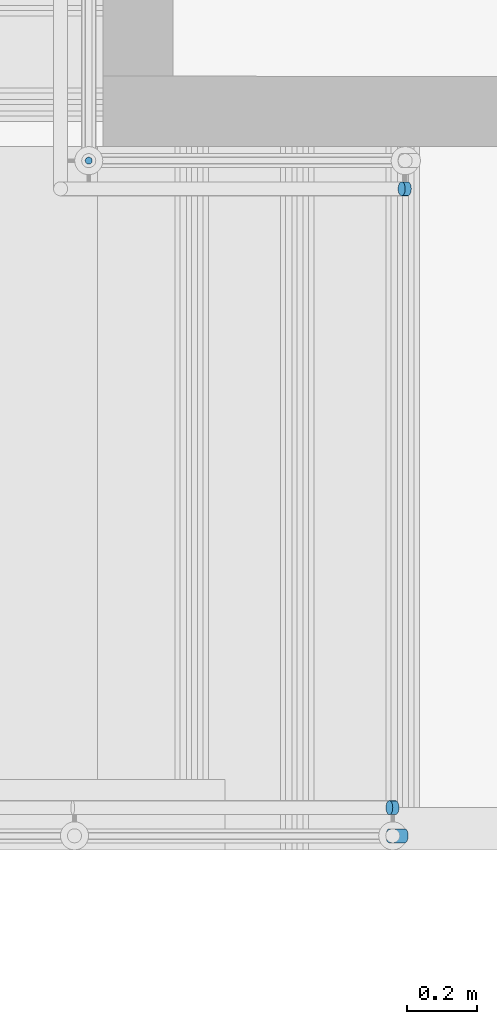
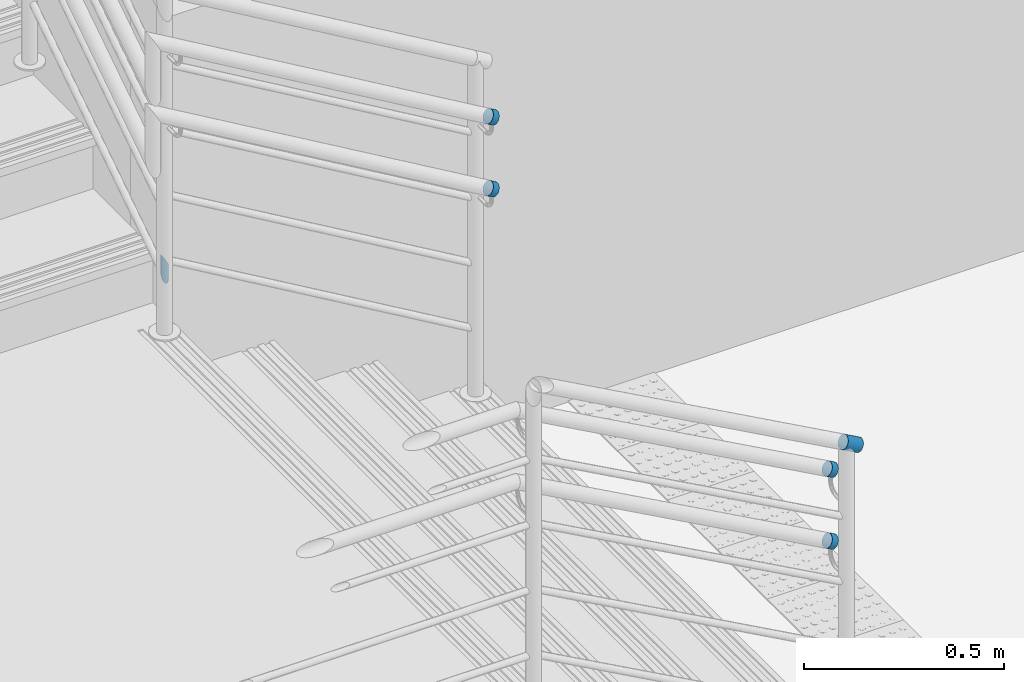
# One storey, part 143 of 237: 6 building element parts, 2 elements without a shape of their own.
"""IFC2X3 building model written with IfcOpenShell, lengths in millimetres."""

from ifc_helpers import new_model, entity, si_unit, converted_unit, derived_unit, money_unit, direction, frame, origin_with_axes, place, context, subcontext, project, spatial, faceted_brep, material, type_object, element, aggregate, save


model = new_model("IFC2X3")

# Units and contexts
model_context = context("Model", 3, precision=0.01, world=origin_with_axes(), true_north=direction((0.0, 1.0)))
body_context = subcontext(model_context, "Body", "Model", "MODEL_VIEW")
ifc_project = project(units=[si_unit("LENGTHUNIT", "METRE", prefix="MILLI"), si_unit("AREAUNIT", "SQUARE_METRE"), si_unit("VOLUMEUNIT", "CUBIC_METRE"), converted_unit("PLANEANGLEUNIT", "DEGREE", entity("IfcPlaneAngleMeasure", 0.0174532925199), si_unit("PLANEANGLEUNIT", "RADIAN"), dimensions=[0, 0, 0, 0, 0, 0, 0]), money_unit("USD"), converted_unit("TIMEUNIT", "Year", entity("IfcTimeMeasure", 31556926.0), si_unit("TIMEUNIT", "SECOND"), dimensions=[0, 0, 1, 0, 0, 0, 0]), si_unit("MASSUNIT", "GRAM", prefix="KILO"), si_unit("THERMODYNAMICTEMPERATUREUNIT", "DEGREE_CELSIUS"), si_unit("LUMINOUSINTENSITYUNIT", "LUMEN"), si_unit("ENERGYUNIT", "JOULE", prefix="MEGA"), derived_unit("THERMALCONDUCTANCEUNIT", [(si_unit("POWERUNIT", "WATT"), 1), (si_unit("LENGTHUNIT", "METRE"), -1), (si_unit("THERMODYNAMICTEMPERATUREUNIT", "KELVIN"), -1)]), derived_unit("SPECIFICHEATCAPACITYUNIT", [(si_unit("ENERGYUNIT", "JOULE"), 1), (si_unit("MASSUNIT", "GRAM", prefix="KILO"), -1), (si_unit("THERMODYNAMICTEMPERATUREUNIT", "KELVIN"), -1)]), derived_unit("MASSDENSITYUNIT", [(si_unit("MASSUNIT", "GRAM", prefix="KILO"), 1), (si_unit("VOLUMEUNIT", "CUBIC_METRE"), -1)])], contexts=[model_context])

# Site, building, storey
site_placement = place(None, origin_with_axes())
site = spatial("IfcSite", under=ifc_project, at=site_placement, Name="Local", CompositionType="ELEMENT")
building_placement = place(site_placement, origin_with_axes())
building = spatial("IfcBuilding", under=site, at=building_placement, Name="Construção", CompositionType="ELEMENT")
storey_placement = place(building_placement, origin_with_axes())
storey = spatial("IfcBuildingStorey", under=building, at=storey_placement, Name="Pavimento Térreo", CompositionType="ELEMENT", Elevation=0.0)

# Railing, building element parts
railing_type = type_object("IfcRailingType", Name="Tipo de Guarda-Corpo", PredefinedType="NOTDEFINED")
railing_1_placement = place(storey_placement, frame((77071.0413397, 23732.4143775, -4865.39060156), z_axis=(0.0, 0.0, 1.0), x_axis=(1.0, 0.0, 0.0)))
railing_1 = element("IfcRailing", 1, at=railing_1_placement, inside=storey, type_object=railing_type, Name="Guarda-Corpo - 001", PredefinedType="NOTDEFINED")
ifc_material = material(Name="Aço - Inoxidável")
building_element_part_1_placement = place(railing_1_placement, origin_with_axes())
building_element_part_1 = element("IfcBuildingElementPart", 2, at=building_element_part_1_placement, material=ifc_material, Name="Aço - Inoxidável", context=body_context, shape_type="Brep", body=[
    faceted_brep([(4512.85140872, -3219.99526689, 704.487121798), (4514.52565876, -3220.29911183, 707.529877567), (4532.04819086, -3220.29911183, 697.888255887), (4530.37394083, -3219.99526689, 694.845500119), (4511.17715869, -3220.29911183, 701.44436603), (4509.55377989, -3221.20141448, 698.494062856), (4508.03059788, -3222.67475882, 695.725855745), (4506.65389377, -3224.67437803, 693.22385527), (4505.46549801, -3227.1395147, 691.064083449), (4504.50151941, -3229.99526689, 689.312163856), (4503.79124798, -3233.15486402, 688.021327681), (4503.35626494, -3236.52230334, 687.230796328), (4503.20978704, -3239.99526689, 686.964589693), (4503.35626494, -3243.46823044, 687.230796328), (4503.79124798, -3246.83566976, 688.021327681), (4504.50151941, -3249.99526689, 689.312163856), (4505.46549801, -3252.85101908, 691.064083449), (4506.65389377, -3255.31615575, 693.22385527), (4508.03059788, -3257.31577497, 695.725855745), (4509.55377989, -3258.78911931, 698.494062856), (4511.17715869, -3259.69142195, 701.44436603), (4512.85140872, -3259.99526689, 704.487121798), (4514.52565876, -3259.69142195, 707.529877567), (4516.14903755, -3258.78911931, 710.480180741), (4517.67221956, -3257.31577497, 713.248387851), (4519.04892367, -3255.31615575, 715.750388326), (4520.23731943, -3252.85101908, 717.910160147), (4521.20129803, -3249.99526689, 719.66207974), (4521.91156947, -3246.83566976, 720.952915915), (4522.3465525, -3243.46823044, 721.743447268), (4522.4930304, -3239.99526689, 722.009653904), (4522.3465525, -3236.52230334, 721.743447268), (4521.91156947, -3233.15486402, 720.952915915), (4521.20129803, -3229.99526689, 719.66207974), (4520.23731943, -3227.1395147, 717.910160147), (4519.04892367, -3224.67437803, 715.750388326), (4517.67221956, -3222.67475882, 713.248387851), (4516.14903755, -3221.20141448, 710.480180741), (4533.67156966, -3221.20141448, 700.838559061), (4535.19475167, -3222.67475882, 703.606766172), (4536.57145578, -3224.67437803, 706.108766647), (4537.75985154, -3227.1395147, 708.268538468), (4538.72383014, -3229.99526689, 710.020458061), (4539.43410157, -3233.15486402, 711.311294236), (4539.86908461, -3236.52230334, 712.101825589), (4540.01556251, -3239.99526689, 712.368032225), (4539.86908461, -3243.46823044, 712.101825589), (4539.43410157, -3246.83566976, 711.311294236), (4538.72383014, -3249.99526689, 710.020458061), (4537.75985154, -3252.85101908, 708.268538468), (4536.57145578, -3255.31615575, 706.108766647), (4535.19475167, -3257.31577497, 703.606766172), (4533.67156966, -3258.78911931, 700.838559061), (4532.04819086, -3259.69142195, 697.888255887), (4530.37394083, -3259.99526689, 694.845500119), (4528.69969079, -3259.69142195, 691.802744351), (4527.076312, -3258.78911931, 688.852441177), (4525.55312999, -3257.31577497, 686.084234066), (4524.17642587, -3255.31615575, 683.582233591), (4522.98803012, -3252.85101908, 681.42246177), (4522.02405152, -3249.99526689, 679.670542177), (4521.31378008, -3246.83566976, 678.379706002), (4520.87879705, -3243.46823044, 677.589174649), (4520.73231915, -3239.99526689, 677.322968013), (4520.87879705, -3236.52230334, 677.589174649), (4521.31378008, -3233.15486402, 678.379706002), (4522.02405152, -3229.99526689, 679.670542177), (4522.98803012, -3227.1395147, 681.42246177), (4524.17642587, -3224.67437803, 683.582233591), (4525.55312999, -3222.67475882, 686.084234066), (4527.076312, -3221.20141448, 688.852441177), (4528.69969079, -3220.29911183, 691.802744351)], [[[0, 1, 2, 3]], [[0, 4, 5, 6, 7, 8, 9, 10, 11, 12, 13, 14, 15, 16, 17, 18, 19, 20, 21, 22, 23, 24, 25, 26, 27, 28, 29, 30, 31, 32, 33, 34, 35, 36, 37, 1]], [[1, 37, 38, 2]], [[3, 2, 38, 39, 40, 41, 42, 43, 44, 45, 46, 47, 48, 49, 50, 51, 52, 53, 54, 55, 56, 57, 58, 59, 60, 61, 62, 63, 64, 65, 66, 67, 68, 69, 70, 71]], [[4, 0, 3, 71]], [[5, 4, 71, 70]], [[6, 5, 70, 69]], [[7, 6, 69, 68]], [[8, 7, 68, 67]], [[9, 8, 67, 66]], [[10, 9, 66, 65]], [[11, 10, 65, 64]], [[12, 11, 64, 63]], [[13, 12, 63, 62]], [[14, 13, 62, 61]], [[15, 14, 61, 60]], [[16, 15, 60, 59]], [[17, 16, 59, 58]], [[18, 17, 58, 57]], [[19, 18, 57, 56]], [[20, 19, 56, 55]], [[21, 20, 55, 54]], [[22, 21, 54, 53]], [[23, 22, 53, 52]], [[24, 23, 52, 51]], [[25, 24, 51, 50]], [[26, 25, 50, 49]], [[27, 26, 49, 48]], [[28, 27, 48, 47]], [[29, 28, 47, 46]], [[30, 29, 46, 45]], [[31, 30, 45, 44]], [[32, 31, 44, 43]], [[33, 32, 43, 42]], [[34, 33, 42, 41]], [[35, 34, 41, 40]], [[36, 35, 40, 39]], [[37, 36, 39, 38]]]),
])
building_element_part_2_placement = place(railing_1_placement, origin_with_axes())
building_element_part_2 = element("IfcBuildingElementPart", 3, at=building_element_part_2_placement, material=ifc_material, Name="Aço - Inoxidável", context=body_context, shape_type="Brep", body=[
    faceted_brep([(4512.85140872, -3219.99526689, 924.487121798), (4514.52565876, -3220.29911183, 927.529877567), (4532.04819086, -3220.29911183, 917.888255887), (4530.37394083, -3219.99526689, 914.845500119), (4511.17715869, -3220.29911183, 921.44436603), (4509.55377989, -3221.20141448, 918.494062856), (4508.03059788, -3222.67475882, 915.725855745), (4506.65389377, -3224.67437803, 913.22385527), (4505.46549801, -3227.1395147, 911.064083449), (4504.50151941, -3229.99526689, 909.312163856), (4503.79124798, -3233.15486402, 908.021327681), (4503.35626494, -3236.52230334, 907.230796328), (4503.20978704, -3239.99526689, 906.964589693), (4503.35626494, -3243.46823044, 907.230796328), (4503.79124798, -3246.83566976, 908.021327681), (4504.50151941, -3249.99526689, 909.312163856), (4505.46549801, -3252.85101908, 911.064083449), (4506.65389377, -3255.31615575, 913.22385527), (4508.03059788, -3257.31577497, 915.725855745), (4509.55377989, -3258.78911931, 918.494062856), (4511.17715869, -3259.69142195, 921.44436603), (4512.85140872, -3259.99526689, 924.487121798), (4514.52565876, -3259.69142195, 927.529877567), (4516.14903755, -3258.78911931, 930.480180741), (4517.67221956, -3257.31577497, 933.248387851), (4519.04892367, -3255.31615575, 935.750388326), (4520.23731943, -3252.85101908, 937.910160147), (4521.20129803, -3249.99526689, 939.66207974), (4521.91156947, -3246.83566976, 940.952915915), (4522.3465525, -3243.46823044, 941.743447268), (4522.4930304, -3239.99526689, 942.009653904), (4522.3465525, -3236.52230334, 941.743447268), (4521.91156947, -3233.15486402, 940.952915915), (4521.20129803, -3229.99526689, 939.66207974), (4520.23731943, -3227.1395147, 937.910160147), (4519.04892367, -3224.67437803, 935.750388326), (4517.67221956, -3222.67475882, 933.248387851), (4516.14903755, -3221.20141448, 930.480180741), (4533.67156966, -3221.20141448, 920.838559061), (4535.19475167, -3222.67475882, 923.606766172), (4536.57145578, -3224.67437803, 926.108766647), (4537.75985154, -3227.1395147, 928.268538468), (4538.72383014, -3229.99526689, 930.020458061), (4539.43410157, -3233.15486402, 931.311294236), (4539.86908461, -3236.52230334, 932.101825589), (4540.01556251, -3239.99526689, 932.368032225), (4539.86908461, -3243.46823044, 932.101825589), (4539.43410157, -3246.83566976, 931.311294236), (4538.72383014, -3249.99526689, 930.020458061), (4537.75985154, -3252.85101908, 928.268538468), (4536.57145578, -3255.31615575, 926.108766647), (4535.19475167, -3257.31577497, 923.606766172), (4533.67156966, -3258.78911931, 920.838559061), (4532.04819086, -3259.69142195, 917.888255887), (4530.37394083, -3259.99526689, 914.845500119), (4528.69969079, -3259.69142195, 911.802744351), (4527.076312, -3258.78911931, 908.852441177), (4525.55312999, -3257.31577497, 906.084234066), (4524.17642587, -3255.31615575, 903.582233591), (4522.98803012, -3252.85101908, 901.42246177), (4522.02405152, -3249.99526689, 899.670542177), (4521.31378008, -3246.83566976, 898.379706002), (4520.87879705, -3243.46823044, 897.589174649), (4520.73231915, -3239.99526689, 897.322968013), (4520.87879705, -3236.52230334, 897.589174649), (4521.31378008, -3233.15486402, 898.379706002), (4522.02405152, -3229.99526689, 899.670542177), (4522.98803012, -3227.1395147, 901.42246177), (4524.17642587, -3224.67437803, 903.582233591), (4525.55312999, -3222.67475882, 906.084234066), (4527.076312, -3221.20141448, 908.852441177), (4528.69969079, -3220.29911183, 911.802744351)], [[[0, 1, 2, 3]], [[0, 4, 5, 6, 7, 8, 9, 10, 11, 12, 13, 14, 15, 16, 17, 18, 19, 20, 21, 22, 23, 24, 25, 26, 27, 28, 29, 30, 31, 32, 33, 34, 35, 36, 37, 1]], [[1, 37, 38, 2]], [[3, 2, 38, 39, 40, 41, 42, 43, 44, 45, 46, 47, 48, 49, 50, 51, 52, 53, 54, 55, 56, 57, 58, 59, 60, 61, 62, 63, 64, 65, 66, 67, 68, 69, 70, 71]], [[4, 0, 3, 71]], [[5, 4, 71, 70]], [[6, 5, 70, 69]], [[7, 6, 69, 68]], [[8, 7, 68, 67]], [[9, 8, 67, 66]], [[10, 9, 66, 65]], [[11, 10, 65, 64]], [[12, 11, 64, 63]], [[13, 12, 63, 62]], [[14, 13, 62, 61]], [[15, 14, 61, 60]], [[16, 15, 60, 59]], [[17, 16, 59, 58]], [[18, 17, 58, 57]], [[19, 18, 57, 56]], [[20, 19, 56, 55]], [[21, 20, 55, 54]], [[22, 21, 54, 53]], [[23, 22, 53, 52]], [[24, 23, 52, 51]], [[25, 24, 51, 50]], [[26, 25, 50, 49]], [[27, 26, 49, 48]], [[28, 27, 48, 47]], [[29, 28, 47, 46]], [[30, 29, 46, 45]], [[31, 30, 45, 44]], [[32, 31, 44, 43]], [[33, 32, 43, 42]], [[34, 33, 42, 41]], [[35, 34, 41, 40]], [[36, 35, 40, 39]], [[37, 36, 39, 38]]]),
])
building_element_part_3_placement = place(railing_1_placement, origin_with_axes())
building_element_part_3 = element("IfcBuildingElementPart", 4, at=building_element_part_3_placement, material=ifc_material, Name="Aço - Inoxidável", context=body_context, shape_type="Brep", body=[
    faceted_brep([(4512.85140872, -3299.99526689, 1054.4871218), (4514.52565876, -3300.29911183, 1057.52987757), (4558.33198902, -3300.29911183, 1033.42582337), (4556.65773899, -3299.99526689, 1030.3830676), (4511.17715869, -3300.29911183, 1051.44436603), (4509.55377989, -3301.20141448, 1048.49406286), (4508.03059788, -3302.67475882, 1045.72585575), (4506.65389377, -3304.67437803, 1043.22385527), (4505.46549801, -3307.1395147, 1041.06408345), (4504.50151941, -3309.99526689, 1039.31216386), (4503.79124798, -3313.15486402, 1038.02132768), (4503.35626494, -3316.52230334, 1037.23079633), (4503.20978704, -3319.99526689, 1036.96458969), (4503.35626494, -3323.46823044, 1037.23079633), (4503.79124798, -3326.83566976, 1038.02132768), (4504.50151941, -3329.99526689, 1039.31216386), (4505.46549801, -3332.85101908, 1041.06408345), (4506.65389377, -3335.31615575, 1043.22385527), (4508.03059788, -3337.31577497, 1045.72585575), (4509.55377989, -3338.78911931, 1048.49406286), (4511.17715869, -3339.69142195, 1051.44436603), (4512.85140872, -3339.99526689, 1054.4871218), (4514.52565876, -3339.69142195, 1057.52987757), (4516.14903755, -3338.78911931, 1060.48018074), (4517.67221956, -3337.31577497, 1063.24838785), (4519.04892367, -3335.31615575, 1065.75038833), (4520.23731943, -3332.85101908, 1067.91016015), (4521.20129803, -3329.99526689, 1069.66207974), (4521.91156947, -3326.83566976, 1070.95291592), (4522.3465525, -3323.46823044, 1071.74344727), (4522.4930304, -3319.99526689, 1072.0096539), (4522.3465525, -3316.52230334, 1071.74344727), (4521.91156947, -3313.15486402, 1070.95291592), (4521.20129803, -3309.99526689, 1069.66207974), (4520.23731943, -3307.1395147, 1067.91016015), (4519.04892367, -3304.67437803, 1065.75038833), (4517.67221956, -3302.67475882, 1063.24838785), (4516.14903755, -3301.20141448, 1060.48018074), (4559.95536781, -3301.20141448, 1036.37612654), (4561.47854983, -3302.67475882, 1039.14433365), (4562.85525394, -3304.67437803, 1041.64633413), (4564.0436497, -3307.1395147, 1043.80610595), (4565.00762829, -3309.99526689, 1045.55802554), (4565.71789973, -3313.15486402, 1046.84886172), (4566.15288277, -3316.52230334, 1047.63939307), (4566.29936067, -3319.99526689, 1047.90559971), (4566.15288277, -3323.46823044, 1047.63939307), (4565.71789973, -3326.83566976, 1046.84886172), (4565.00762829, -3329.99526689, 1045.55802554), (4564.0436497, -3332.85101908, 1043.80610595), (4562.85525394, -3335.31615575, 1041.64633413), (4561.47854983, -3337.31577497, 1039.14433365), (4559.95536781, -3338.78911931, 1036.37612654), (4558.33198902, -3339.69142195, 1033.42582337), (4556.65773899, -3339.99526689, 1030.3830676), (4554.98348895, -3339.69142195, 1027.34031183), (4553.36011016, -3338.78911931, 1024.39000866), (4551.83692815, -3337.31577497, 1021.62180155), (4550.46022403, -3335.31615575, 1019.11980107), (4549.27182828, -3332.85101908, 1016.96002925), (4548.30784968, -3329.99526689, 1015.20810966), (4547.59757824, -3326.83566976, 1013.91727348), (4547.1625952, -3323.46823044, 1013.12674213), (4547.01611731, -3319.99526689, 1012.86053549), (4547.1625952, -3316.52230334, 1013.12674213), (4547.59757824, -3313.15486402, 1013.91727348), (4548.30784968, -3309.99526689, 1015.20810966), (4549.27182828, -3307.1395147, 1016.96002925), (4550.46022403, -3304.67437803, 1019.11980107), (4551.83692815, -3302.67475882, 1021.62180155), (4553.36011016, -3301.20141448, 1024.39000866), (4554.98348895, -3300.29911183, 1027.34031183)], [[[0, 1, 2, 3]], [[0, 4, 5, 6, 7, 8, 9, 10, 11, 12, 13, 14, 15, 16, 17, 18, 19, 20, 21, 22, 23, 24, 25, 26, 27, 28, 29, 30, 31, 32, 33, 34, 35, 36, 37, 1]], [[1, 37, 38, 2]], [[3, 2, 38, 39, 40, 41, 42, 43, 44, 45, 46, 47, 48, 49, 50, 51, 52, 53, 54, 55, 56, 57, 58, 59, 60, 61, 62, 63, 64, 65, 66, 67, 68, 69, 70, 71]], [[4, 0, 3, 71]], [[5, 4, 71, 70]], [[6, 5, 70, 69]], [[7, 6, 69, 68]], [[8, 7, 68, 67]], [[9, 8, 67, 66]], [[10, 9, 66, 65]], [[11, 10, 65, 64]], [[12, 11, 64, 63]], [[13, 12, 63, 62]], [[14, 13, 62, 61]], [[15, 14, 61, 60]], [[16, 15, 60, 59]], [[17, 16, 59, 58]], [[18, 17, 58, 57]], [[19, 18, 57, 56]], [[20, 19, 56, 55]], [[21, 20, 55, 54]], [[22, 21, 54, 53]], [[23, 22, 53, 52]], [[24, 23, 52, 51]], [[25, 24, 51, 50]], [[26, 25, 50, 49]], [[27, 26, 49, 48]], [[28, 27, 48, 47]], [[29, 28, 47, 46]], [[30, 29, 46, 45]], [[31, 30, 45, 44]], [[32, 31, 44, 43]], [[33, 32, 43, 42]], [[34, 33, 42, 41]], [[35, 34, 41, 40]], [[36, 35, 40, 39]], [[37, 36, 39, 38]]]),
])
aggregate(railing_1, [building_element_part_1, building_element_part_2, building_element_part_3])

railing_2_placement = place(storey_placement, frame((84562.8908804, 21657.2175927, -4868.39227091), z_axis=(0.0, 0.0, 1.0), x_axis=(1.0, 0.0, 0.0)))
railing_2 = element("IfcRailing", 5, at=railing_2_placement, inside=storey, type_object=railing_type, Name="Guarda-Corpo - 002", PredefinedType="NOTDEFINED")
building_element_part_4_placement = place(railing_2_placement, origin_with_axes())
building_element_part_4 = element("IfcBuildingElementPart", 6, at=building_element_part_4_placement, material=ifc_material, Name="Aço - Inoxidável", context=body_context, shape_type="Brep", body=[
    faceted_brep([(-2944.0517007, 615.201517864, 706.21625671), (-2942.29432627, 614.897672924, 709.211771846), (-2925.04384212, 614.897672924, 699.091455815), (-2926.80121655, 615.201517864, 696.095940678), (-2945.80907514, 614.897672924, 703.220741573), (-2947.51305264, 613.99537028, 700.316243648), (-2949.11185872, 612.52202594, 697.591014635), (-2950.55691445, 610.522406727, 695.127859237), (-2951.80431256, 608.057270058, 693.001619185), (-2952.81615148, 605.201517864, 691.276899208), (-2953.561687, 602.041920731, 690.006104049), (-2954.01826639, 598.674481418, 689.227846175), (-2954.17201674, 595.201517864, 688.965772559), (-2954.01826639, 591.728554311, 689.227846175), (-2953.561687, 588.361114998, 690.006104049), (-2952.81615148, 585.201517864, 691.276899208), (-2951.80431256, 582.34576567, 693.001619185), (-2950.55691445, 579.880629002, 695.127859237), (-2949.11185872, 577.881009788, 697.591014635), (-2947.51305264, 576.407665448, 700.316243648), (-2945.80907514, 575.505362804, 703.220741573), (-2944.0517007, 575.201517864, 706.21625671), (-2942.29432627, 575.505362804, 709.211771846), (-2940.59034876, 576.407665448, 712.116269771), (-2938.99154269, 577.881009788, 714.841498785), (-2937.54648695, 579.880629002, 717.304654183), (-2936.29908884, 582.34576567, 719.430894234), (-2935.28724993, 585.201517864, 721.155614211), (-2934.54171441, 588.361114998, 722.426409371), (-2934.08513501, 591.728554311, 723.204667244), (-2933.93138467, 595.201517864, 723.46674086), (-2934.08513501, 598.674481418, 723.204667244), (-2934.54171441, 602.041920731, 722.426409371), (-2935.28724993, 605.201517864, 721.155614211), (-2936.29908884, 608.057270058, 719.430894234), (-2937.54648695, 610.522406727, 717.304654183), (-2938.99154269, 612.52202594, 714.841498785), (-2940.59034876, 613.99537028, 712.116269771), (-2923.33986461, 613.99537028, 701.99595374), (-2921.74105854, 612.52202594, 704.721182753), (-2920.2960028, 610.522406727, 707.184338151), (-2919.04860469, 608.057270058, 709.310578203), (-2918.03676578, 605.201517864, 711.03529818), (-2917.29123026, 602.041920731, 712.306093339), (-2916.83465086, 598.674481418, 713.084351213), (-2916.68090052, 595.201517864, 713.346424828), (-2916.83465086, 591.728554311, 713.084351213), (-2917.29123026, 588.361114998, 712.306093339), (-2918.03676578, 585.201517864, 711.03529818), (-2919.04860469, 582.34576567, 709.310578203), (-2920.2960028, 579.880629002, 707.184338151), (-2921.74105854, 577.881009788, 704.721182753), (-2923.33986461, 576.407665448, 701.99595374), (-2925.04384212, 575.505362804, 699.091455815), (-2926.80121655, 575.201517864, 696.095940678), (-2928.55859099, 575.505362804, 693.100425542), (-2930.26256849, 576.407665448, 690.195927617), (-2931.86137457, 577.881009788, 687.470698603), (-2933.3064303, 579.880629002, 685.007543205), (-2934.55382841, 582.34576567, 682.881303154), (-2935.56566733, 585.201517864, 681.156583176), (-2936.31120285, 588.361114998, 679.885788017), (-2936.76778224, 591.728554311, 679.107530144), (-2936.92153258, 595.201517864, 678.845456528), (-2936.76778224, 598.674481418, 679.107530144), (-2936.31120285, 602.041920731, 679.885788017), (-2935.56566733, 605.201517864, 681.156583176), (-2934.55382841, 608.057270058, 682.881303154), (-2933.3064303, 610.522406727, 685.007543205), (-2931.86137457, 612.52202594, 687.470698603), (-2930.26256849, 613.99537028, 690.195927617), (-2928.55859099, 614.897672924, 693.100425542)], [[[0, 1, 2, 3]], [[0, 4, 5, 6, 7, 8, 9, 10, 11, 12, 13, 14, 15, 16, 17, 18, 19, 20, 21, 22, 23, 24, 25, 26, 27, 28, 29, 30, 31, 32, 33, 34, 35, 36, 37, 1]], [[1, 37, 38, 2]], [[3, 2, 38, 39, 40, 41, 42, 43, 44, 45, 46, 47, 48, 49, 50, 51, 52, 53, 54, 55, 56, 57, 58, 59, 60, 61, 62, 63, 64, 65, 66, 67, 68, 69, 70, 71]], [[4, 0, 3, 71]], [[5, 4, 71, 70]], [[6, 5, 70, 69]], [[7, 6, 69, 68]], [[8, 7, 68, 67]], [[9, 8, 67, 66]], [[10, 9, 66, 65]], [[11, 10, 65, 64]], [[12, 11, 64, 63]], [[13, 12, 63, 62]], [[14, 13, 62, 61]], [[15, 14, 61, 60]], [[16, 15, 60, 59]], [[17, 16, 59, 58]], [[18, 17, 58, 57]], [[19, 18, 57, 56]], [[20, 19, 56, 55]], [[21, 20, 55, 54]], [[22, 21, 54, 53]], [[23, 22, 53, 52]], [[24, 23, 52, 51]], [[25, 24, 51, 50]], [[26, 25, 50, 49]], [[27, 26, 49, 48]], [[28, 27, 48, 47]], [[29, 28, 47, 46]], [[30, 29, 46, 45]], [[31, 30, 45, 44]], [[32, 31, 44, 43]], [[33, 32, 43, 42]], [[34, 33, 42, 41]], [[35, 34, 41, 40]], [[36, 35, 40, 39]], [[37, 36, 39, 38]]]),
])
building_element_part_5_placement = place(railing_2_placement, origin_with_axes())
building_element_part_5 = element("IfcBuildingElementPart", 7, at=building_element_part_5_placement, material=ifc_material, Name="Aço - Inoxidável", context=body_context, shape_type="Brep", body=[
    faceted_brep([(-2944.0517007, 615.201517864, 926.21625671), (-2942.29432627, 614.897672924, 929.211771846), (-2925.04384212, 614.897672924, 919.091455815), (-2926.80121655, 615.201517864, 916.095940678), (-2945.80907514, 614.897672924, 923.220741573), (-2947.51305264, 613.99537028, 920.316243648), (-2949.11185872, 612.52202594, 917.591014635), (-2950.55691445, 610.522406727, 915.127859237), (-2951.80431256, 608.057270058, 913.001619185), (-2952.81615148, 605.201517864, 911.276899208), (-2953.561687, 602.041920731, 910.006104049), (-2954.01826639, 598.674481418, 909.227846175), (-2954.17201674, 595.201517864, 908.965772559), (-2954.01826639, 591.728554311, 909.227846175), (-2953.561687, 588.361114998, 910.006104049), (-2952.81615148, 585.201517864, 911.276899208), (-2951.80431256, 582.34576567, 913.001619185), (-2950.55691445, 579.880629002, 915.127859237), (-2949.11185872, 577.881009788, 917.591014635), (-2947.51305264, 576.407665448, 920.316243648), (-2945.80907514, 575.505362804, 923.220741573), (-2944.0517007, 575.201517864, 926.21625671), (-2942.29432627, 575.505362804, 929.211771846), (-2940.59034876, 576.407665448, 932.116269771), (-2938.99154269, 577.881009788, 934.841498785), (-2937.54648695, 579.880629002, 937.304654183), (-2936.29908884, 582.34576567, 939.430894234), (-2935.28724993, 585.201517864, 941.155614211), (-2934.54171441, 588.361114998, 942.426409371), (-2934.08513501, 591.728554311, 943.204667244), (-2933.93138467, 595.201517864, 943.46674086), (-2934.08513501, 598.674481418, 943.204667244), (-2934.54171441, 602.041920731, 942.426409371), (-2935.28724993, 605.201517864, 941.155614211), (-2936.29908884, 608.057270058, 939.430894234), (-2937.54648695, 610.522406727, 937.304654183), (-2938.99154269, 612.52202594, 934.841498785), (-2940.59034876, 613.99537028, 932.116269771), (-2923.33986461, 613.99537028, 921.99595374), (-2921.74105854, 612.52202594, 924.721182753), (-2920.2960028, 610.522406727, 927.184338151), (-2919.04860469, 608.057270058, 929.310578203), (-2918.03676578, 605.201517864, 931.03529818), (-2917.29123026, 602.041920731, 932.306093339), (-2916.83465086, 598.674481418, 933.084351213), (-2916.68090052, 595.201517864, 933.346424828), (-2916.83465086, 591.728554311, 933.084351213), (-2917.29123026, 588.361114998, 932.306093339), (-2918.03676578, 585.201517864, 931.03529818), (-2919.04860469, 582.34576567, 929.310578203), (-2920.2960028, 579.880629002, 927.184338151), (-2921.74105854, 577.881009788, 924.721182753), (-2923.33986461, 576.407665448, 921.99595374), (-2925.04384212, 575.505362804, 919.091455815), (-2926.80121655, 575.201517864, 916.095940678), (-2928.55859099, 575.505362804, 913.100425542), (-2930.26256849, 576.407665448, 910.195927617), (-2931.86137457, 577.881009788, 907.470698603), (-2933.3064303, 579.880629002, 905.007543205), (-2934.55382841, 582.34576567, 902.881303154), (-2935.56566733, 585.201517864, 901.156583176), (-2936.31120285, 588.361114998, 899.885788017), (-2936.76778224, 591.728554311, 899.107530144), (-2936.92153258, 595.201517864, 898.845456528), (-2936.76778224, 598.674481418, 899.107530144), (-2936.31120285, 602.041920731, 899.885788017), (-2935.56566733, 605.201517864, 901.156583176), (-2934.55382841, 608.057270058, 902.881303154), (-2933.3064303, 610.522406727, 905.007543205), (-2931.86137457, 612.52202594, 907.470698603), (-2930.26256849, 613.99537028, 910.195927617), (-2928.55859099, 614.897672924, 913.100425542)], [[[0, 1, 2, 3]], [[0, 4, 5, 6, 7, 8, 9, 10, 11, 12, 13, 14, 15, 16, 17, 18, 19, 20, 21, 22, 23, 24, 25, 26, 27, 28, 29, 30, 31, 32, 33, 34, 35, 36, 37, 1]], [[1, 37, 38, 2]], [[3, 2, 38, 39, 40, 41, 42, 43, 44, 45, 46, 47, 48, 49, 50, 51, 52, 53, 54, 55, 56, 57, 58, 59, 60, 61, 62, 63, 64, 65, 66, 67, 68, 69, 70, 71]], [[4, 0, 3, 71]], [[5, 4, 71, 70]], [[6, 5, 70, 69]], [[7, 6, 69, 68]], [[8, 7, 68, 67]], [[9, 8, 67, 66]], [[10, 9, 66, 65]], [[11, 10, 65, 64]], [[12, 11, 64, 63]], [[13, 12, 63, 62]], [[14, 13, 62, 61]], [[15, 14, 61, 60]], [[16, 15, 60, 59]], [[17, 16, 59, 58]], [[18, 17, 58, 57]], [[19, 18, 57, 56]], [[20, 19, 56, 55]], [[21, 20, 55, 54]], [[22, 21, 54, 53]], [[23, 22, 53, 52]], [[24, 23, 52, 51]], [[25, 24, 51, 50]], [[26, 25, 50, 49]], [[27, 26, 49, 48]], [[28, 27, 48, 47]], [[29, 28, 47, 46]], [[30, 29, 46, 45]], [[31, 30, 45, 44]], [[32, 31, 44, 43]], [[33, 32, 43, 42]], [[34, 33, 42, 41]], [[35, 34, 41, 40]], [[36, 35, 40, 39]], [[37, 36, 39, 38]]]),
])
building_element_part_6_placement = place(railing_2_placement, origin_with_axes())
building_element_part_6 = element("IfcBuildingElementPart", 8, at=building_element_part_6_placement, material=ifc_material, Name="Aço - Inoxidável", context=body_context, shape_type="Brep", body=[
    faceted_brep([(-3832.19483234, 685.049765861, 720.018512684), (-3833.93131303, 685.201710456, 720.299737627), (-3833.93131303, 685.201517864, 751.468410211), (-3832.19483234, 685.049582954, 748.436415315), (-3835.6677959, 685.049812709, 720.018599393), (-3830.51111592, 684.598596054, 719.18347013), (-3828.93132263, 683.861910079, 717.819983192), (-3827.5034537, 682.862092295, 715.96948171), (-3826.27089419, 681.629522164, 713.688193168), (-3825.27109482, 680.20165109, 711.045434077), (-3824.53443396, 678.621864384, 708.121503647), (-3824.0832947, 676.938162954, 705.005243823), (-3823.93138467, 675.201704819, 701.791339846), (-3824.08331958, 673.465250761, 698.577443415), (-3824.53448297, 671.781561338, 695.461205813), (-3825.27116645, 670.201793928, 692.537311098), (-3826.27098629, 668.773948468, 689.894599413), (-3827.50356345, 667.541409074, 687.613367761), (-3828.93144671, 666.541625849, 685.762930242), (-3830.51125056, 665.804976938, 684.399511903), (-3832.19497345, 665.353845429, 683.564540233), (-3833.93145631, 665.201939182, 683.283386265), (-3835.667937, 665.353874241, 683.564593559), (-3837.35165342, 665.805034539, 684.399618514), (-3838.93144671, 666.541712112, 685.763089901), (-3840.35931565, 667.541523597, 687.613579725), (-3841.59187515, 668.774090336, 689.894861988), (-3842.59167453, 670.201961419, 692.537621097), (-3843.32833538, 671.781751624, 695.461558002), (-3843.77947464, 673.465459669, 698.57783007), (-3843.93138467, 675.20192672, 701.791750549), (-3843.77944976, 676.938390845, 705.005665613), (-3843.32828638, 678.622090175, 708.12192155), (-3842.59160289, 680.201866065, 711.04583196), (-3841.59178305, 681.629717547, 713.68855479), (-3840.35920589, 682.862259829, 715.969791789), (-3838.93132263, 683.862042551, 717.820228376), (-3837.35151879, 684.59868771, 719.18363977), (-3835.6677959, 685.049607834, 754.500405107), (-3838.93144671, 666.541299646, 760.198691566), (-3837.35165342, 665.804616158, 757.440274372), (-3835.667937, 665.353452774, 754.500405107), (-3833.93145631, 665.201517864, 751.468410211), (-3832.19497345, 665.353427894, 748.436415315), (-3830.51125056, 665.804567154, 745.49654605), (-3828.93144671, 666.541228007, 742.738128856), (-3827.50356345, 667.541027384, 740.244976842), (-3826.27098629, 668.773586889, 738.092843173), (-3825.27116645, 670.201455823, 736.347119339), (-3824.53448297, 671.781249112, 735.060848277), (-3824.08331958, 673.464965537, 734.273112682), (-3823.93138467, 675.201446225, 734.0078475), (-3824.0832947, 676.93792909, 734.273112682), (-3824.53443396, 678.621651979, 735.060848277), (-3825.27109482, 680.201455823, 736.347119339), (-3826.27089419, 681.629339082, 738.092843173), (-3827.5034537, 682.861916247, 740.244976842), (-3828.93132263, 683.861736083, 742.738128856), (-3830.51111592, 684.59841957, 745.49654605), (-3837.35151879, 684.598468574, 757.440274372), (-3838.93132263, 683.861807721, 760.198691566), (-3840.35920589, 682.862008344, 762.691843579), (-3841.59178305, 681.62944884, 764.843977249), (-3842.59160289, 680.201579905, 766.589701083), (-3843.32828638, 678.621786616, 767.875972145), (-3843.77944976, 676.938070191, 768.66370774), (-3843.93138467, 675.201589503, 768.928972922), (-3843.77947464, 673.465106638, 768.66370774), (-3843.32833538, 671.781383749, 767.875972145), (-3842.59167453, 670.201579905, 766.589701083), (-3841.59187515, 668.773696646, 764.843977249), (-3840.35931565, 667.541119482, 762.691843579)], [[[0, 1, 2, 3]], [[4, 1, 0, 5, 6, 7, 8, 9, 10, 11, 12, 13, 14, 15, 16, 17, 18, 19, 20, 21, 22, 23, 24, 25, 26, 27, 28, 29, 30, 31, 32, 33, 34, 35, 36, 37]], [[1, 4, 38, 2]], [[39, 40, 41, 42, 43, 44, 45, 46, 47, 48, 49, 50, 51, 52, 53, 54, 55, 56, 57, 58, 3, 2, 38, 59, 60, 61, 62, 63, 64, 65, 66, 67, 68, 69, 70, 71]], [[5, 0, 3, 58]], [[6, 5, 58, 57]], [[7, 6, 57, 56]], [[8, 7, 56, 55]], [[9, 8, 55, 54]], [[10, 9, 54, 53]], [[11, 10, 53, 52]], [[12, 11, 52, 51]], [[13, 12, 51, 50]], [[14, 13, 50, 49]], [[15, 14, 49, 48]], [[16, 15, 48, 47]], [[17, 16, 47, 46]], [[18, 17, 46, 45]], [[19, 18, 45, 44]], [[20, 19, 44, 43]], [[21, 20, 43, 42]], [[22, 21, 42, 41]], [[23, 22, 41, 40]], [[24, 23, 40, 39]], [[25, 24, 39, 71]], [[26, 25, 71, 70]], [[27, 26, 70, 69]], [[28, 27, 69, 68]], [[29, 28, 68, 67]], [[30, 29, 67, 66]], [[31, 30, 66, 65]], [[32, 31, 65, 64]], [[33, 32, 64, 63]], [[34, 33, 63, 62]], [[35, 34, 62, 61]], [[36, 35, 61, 60]], [[37, 36, 60, 59]], [[4, 37, 59, 38]]]),
])
aggregate(railing_2, [building_element_part_4, building_element_part_5, building_element_part_6])

save(model, "model.ifc")
